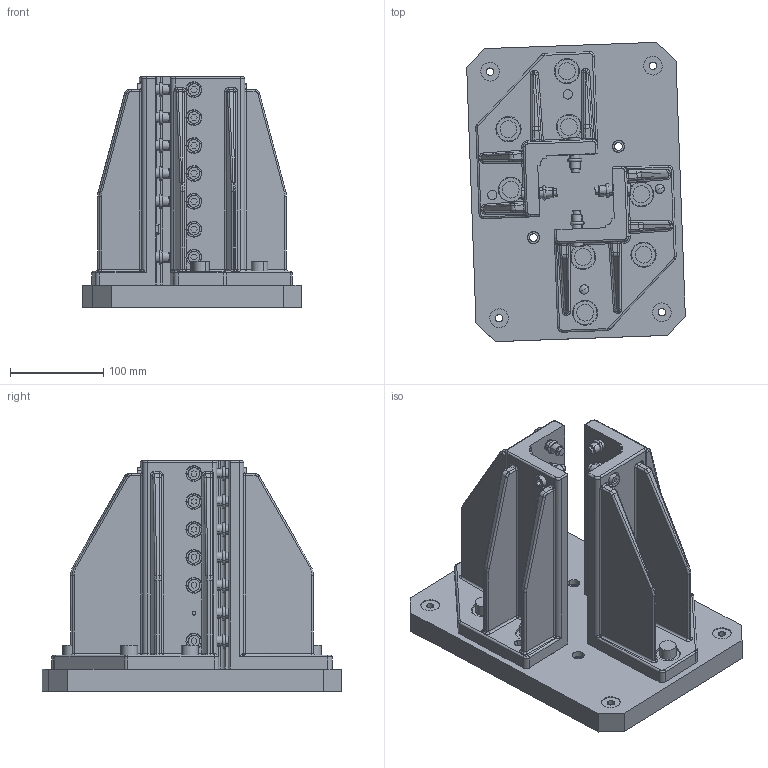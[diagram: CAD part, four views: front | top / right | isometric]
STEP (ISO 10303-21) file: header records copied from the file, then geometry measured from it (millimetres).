
FILE_DESCRIPTION(('CATIA V5 STEP Exchange'),'2;1');
FILE_NAME('E:\Euro Gripper 3D\EGT054.stp','2012-09-18T05:25:49+00:00',('none'),('none'),'CATIA Version 5 Release 19 SP 2 (IN-10)','CATIA V5 STEP AP203','none');
FILE_SCHEMA(('CONFIG_CONTROL_DESIGN'));
Products named in the file (1): EGT054
Bounding box: 234.89 x 321.54 x 248 mm (x, y, z)
Volume: 3699484.7 mm3; surface area: 693695.2 mm2
Topology: 91 solids, 91 shells, 1922 faces, 4264 edges, 2652 vertices
Faces by surface type: cylinder 894, plane 608, cone 252, torus 88, bspline 56, sphere 24
Entity records: 52804 total; most frequent: CARTESIAN_POINT 13265, ORIENTED_EDGE 8472, DIRECTION 6546, EDGE_CURVE 4236, AXIS2_PLACEMENT_3D 3373, VERTEX_POINT 2652, EDGE_LOOP 2322, CIRCLE 2102
